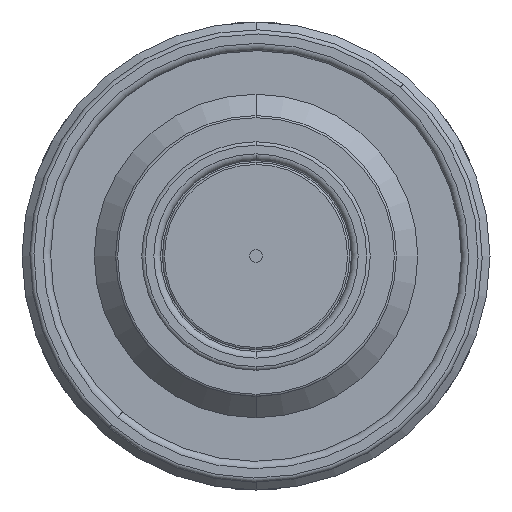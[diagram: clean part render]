
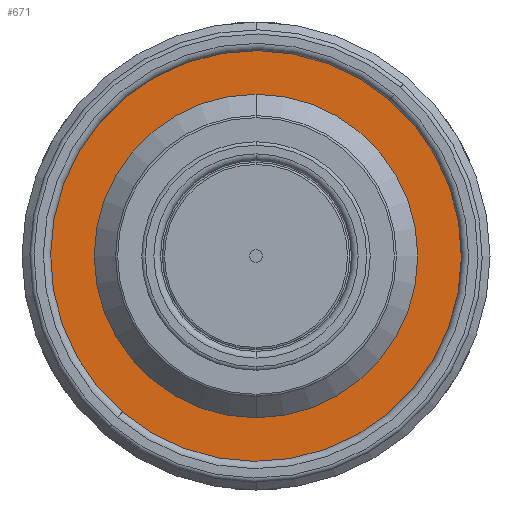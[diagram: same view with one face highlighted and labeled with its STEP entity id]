
A CAD part, front view. The second image highlights one B-rep face of the part: STEP entity #671.
In plain terms, the highlighted planar face has unit normal (0, -1, 0).
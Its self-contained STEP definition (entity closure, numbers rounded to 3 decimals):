
#280=PLANE('',#2748);
#322=FACE_BOUND('',#1011,.T.);
#323=FACE_BOUND('',#1012,.T.);
#671=ADVANCED_FACE('',(#322,#323),#280,.F.);
#1011=EDGE_LOOP('',(#1478,#1479));
#1012=EDGE_LOOP('',(#1480,#1481));
#1478=ORIENTED_EDGE('',*,*,#2200,.F.);
#1479=ORIENTED_EDGE('',*,*,#2175,.F.);
#1480=ORIENTED_EDGE('',*,*,#2171,.T.);
#1481=ORIENTED_EDGE('',*,*,#2201,.T.);
#1899=VERTEX_POINT('',#4318);
#1900=VERTEX_POINT('',#4320);
#1903=VERTEX_POINT('',#4327);
#1904=VERTEX_POINT('',#4329);
#2171=EDGE_CURVE('',#1900,#1899,#2430,.T.);
#2175=EDGE_CURVE('',#1903,#1904,#2433,.T.);
#2200=EDGE_CURVE('',#1904,#1903,#2453,.T.);
#2201=EDGE_CURVE('',#1899,#1900,#2454,.T.);
#2430=CIRCLE('',#2707,21.4);
#2433=CIRCLE('',#2711,15.55);
#2453=CIRCLE('',#2745,15.55);
#2454=CIRCLE('',#2747,21.4);
#2707=AXIS2_PLACEMENT_3D('',#4319,#3323,#3324);
#2711=AXIS2_PLACEMENT_3D('',#4328,#3332,#3333);
#2745=AXIS2_PLACEMENT_3D('',#4380,#3405,#3406);
#2747=AXIS2_PLACEMENT_3D('',#4382,#3409,#3410);
#2748=AXIS2_PLACEMENT_3D('',#4383,#3411,#3412);
#3323=DIRECTION('',(0.,-1.,0.));
#3324=DIRECTION('',(0.,0.,-1.));
#3332=DIRECTION('',(0.,-1.,0.));
#3333=DIRECTION('',(0.,0.,-1.));
#3405=DIRECTION('',(0.,-1.,0.));
#3406=DIRECTION('',(0.,0.,-1.));
#3409=DIRECTION('',(0.,-1.,0.));
#3410=DIRECTION('',(0.,0.,-1.));
#3411=DIRECTION('',(0.,1.,0.));
#3412=DIRECTION('',(0.,0.,1.));
#4318=CARTESIAN_POINT('',(0.,46.5,21.4));
#4319=CARTESIAN_POINT('',(0.,46.5,0.));
#4320=CARTESIAN_POINT('',(0.,46.5,-21.4));
#4327=CARTESIAN_POINT('',(0.,46.5,-15.55));
#4328=CARTESIAN_POINT('',(0.,46.5,0.));
#4329=CARTESIAN_POINT('',(0.,46.5,15.55));
#4380=CARTESIAN_POINT('',(0.,46.5,0.));
#4382=CARTESIAN_POINT('',(0.,46.5,0.));
#4383=CARTESIAN_POINT('',(0.,46.5,0.));
